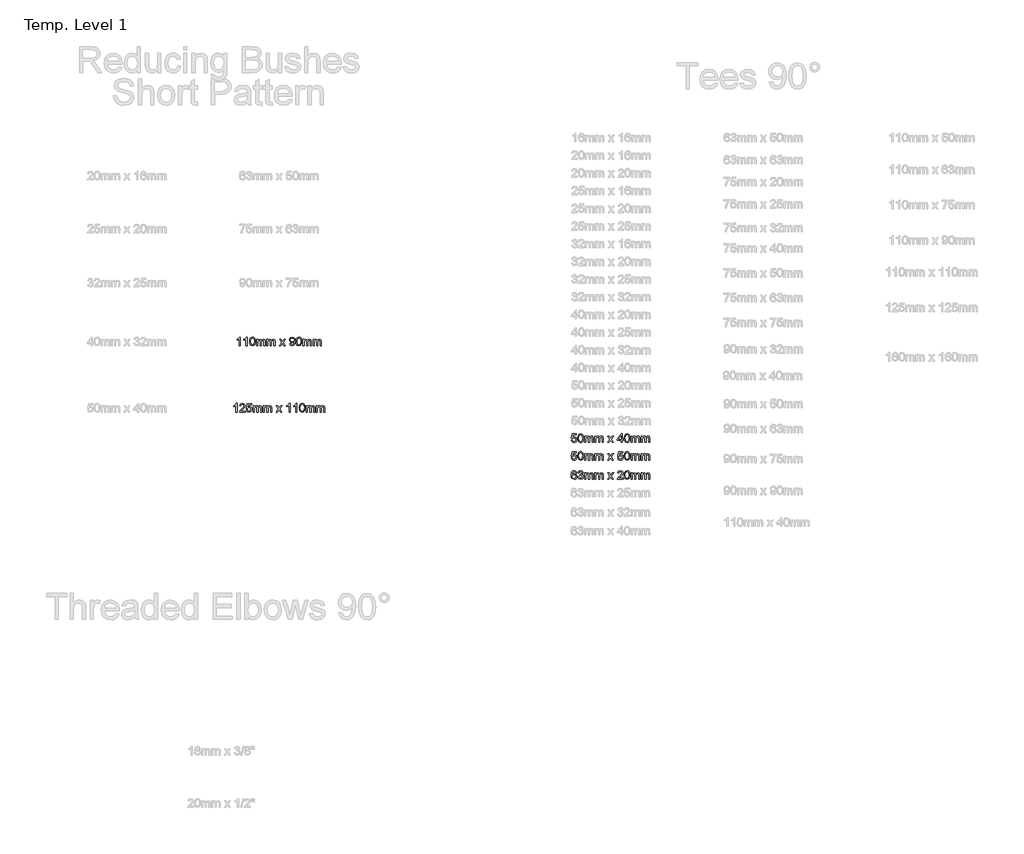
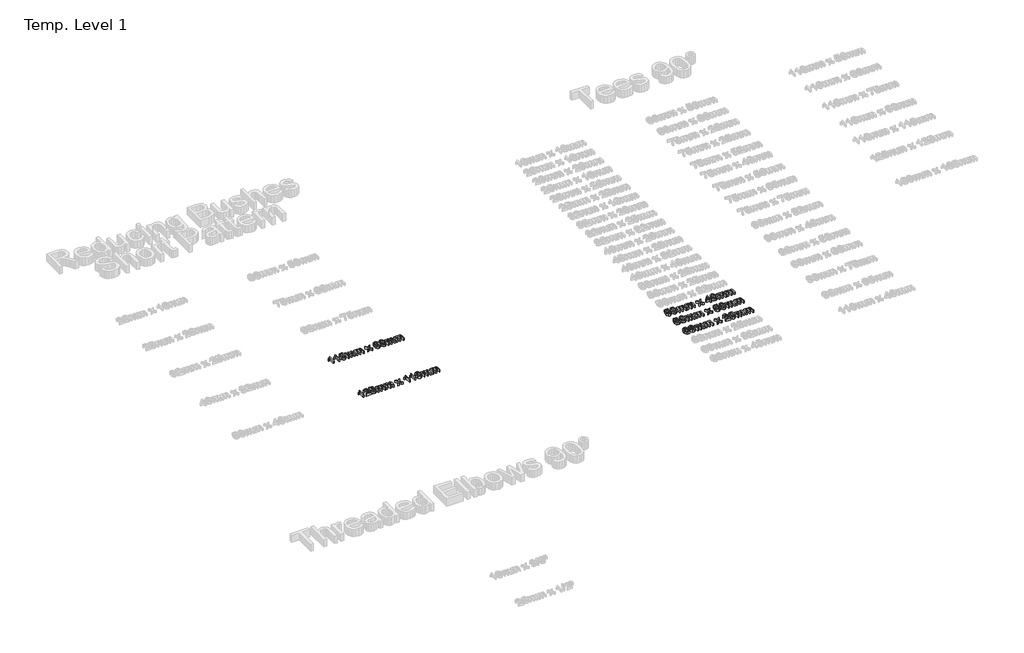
# One storey, part 24 of 62: 5 proxies.
"""IFC4 building model written with IfcOpenShell, lengths in millimetres."""

from ifc_helpers import new_model, si_unit, origin, origin_with_axes, place, context, project, spatial, polyline, outline, extrude, element, save

model = new_model("IFC4")

# Units and contexts
model_context = context("Model", 3, world=origin())
ifc_project = project(units=[si_unit("LENGTHUNIT", "METRE", prefix="MILLI")], contexts=[model_context])

# Site, building, storey
site = spatial("IfcSite", under=ifc_project)
building = spatial("IfcBuilding", under=site)
storey = spatial("IfcBuildingStorey", under=building, Name="Temp. Level 1", Elevation=0.0)

# Proxies
placement = place(None, origin())
element("IfcBuildingElementProxy", 1, Name="50mm Arial", ObjectType="50mm Arial", at=placement, inside=storey, context=model_context, shape_type="SweptSolid", body=[
    extrude(outline(polyline([(24542.2823318, -8522.7751451), (24536.1284857, -8522.7751451), (24536.1284857, -8484.4097605), (24530.2991588, -8488.5624047), (24523.8207934, -8491.6693759), (24523.8207934, -8485.8520682), (24532.8412261, -8480.0948566), (24538.3159857, -8473.5443759), (24542.2823318, -8473.5443759), (24542.2823318, -8522.7751451)])), origin_with_axes(), (0.0, 0.0, 1.0), 15.0),
    extrude(outline(polyline([(24579.9746395, -8522.7751451), (24573.8207934, -8522.7751451), (24573.8207934, -8484.4097605), (24567.9914665, -8488.5624047), (24561.5131011, -8491.6693759), (24561.5131011, -8485.8520682), (24570.5335338, -8480.0948566), (24576.0082934, -8473.5443759), (24579.9746395, -8473.5443759), (24579.9746395, -8522.7751451)])), origin_with_axes(), (0.0, 0.0, 1.0), 15.0),
    extrude(outline(polyline([(24594.5900242, -8498.5563951), (24596.3989184, -8484.3917316), (24601.7715145, -8476.2246643), (24610.7438703, -8473.5443759), (24617.9313703, -8475.1309143), (24622.8953126, -8479.7042316), (24625.779928, -8486.9878855), (24626.8977165, -8498.5563951), (24625.1068511, -8512.6609624), (24619.7522838, -8520.8460586), (24610.7438703, -8523.5443759), (24599.4938703, -8518.8568759), (24595.8159857, -8510.5305538), (24594.5900242, -8498.5563951)]), holes=[polyline([(24600.7438703, -8498.5443759), (24603.6284857, -8513.8268278), (24610.7438703, -8517.3905297), (24617.8592549, -8513.8148086), (24620.7438703, -8498.5443759), (24617.9554088, -8483.4362028), (24610.6717549, -8479.698222), (24603.7246395, -8482.9914913), (24600.7438703, -8498.5443759)])]), origin_with_axes(), (0.0, 0.0, 1.0), 15.0),
    extrude(outline(polyline([(24633.8207934, -8522.7751451), (24633.8207934, -8486.621299), (24639.9746395, -8486.621299), (24639.9746395, -8492.5708182), (24644.2054088, -8487.6970201), (24650.2270434, -8485.8520682), (24656.3929088, -8487.7330778), (24659.7823318, -8493.0035105), (24664.5840145, -8487.6399288), (24670.6477165, -8485.8520682), (24678.6945915, -8488.8268278), (24681.5131011, -8497.9914913), (24681.5131011, -8522.7751451), (24675.3592549, -8522.7751451), (24675.3592549, -8500.635722), (24674.7883415, -8495.4975009), (24672.7210338, -8492.9674528), (24669.2054088, -8492.0059143), (24663.1537261, -8494.4698566), (24660.7438703, -8502.3664913), (24660.7438703, -8522.7751451), (24654.5900242, -8522.7751451), (24654.5900242, -8499.9506259), (24653.1657453, -8493.9890874), (24648.4962742, -8492.0059143), (24643.9409857, -8493.3280297), (24640.9121395, -8497.198222), (24639.9746395, -8504.541972), (24639.9746395, -8522.7751451), (24633.8207934, -8522.7751451)])), origin_with_axes(), (0.0, 0.0, 1.0), 15.0),
    extrude(outline(polyline([(24690.7438703, -8522.7751451), (24690.7438703, -8486.621299), (24696.8977165, -8486.621299), (24696.8977165, -8492.5708182), (24701.1284857, -8487.6970201), (24707.1501203, -8485.8520682), (24713.3159857, -8487.7330778), (24716.7054088, -8493.0035105), (24721.5070915, -8487.6399288), (24727.5707934, -8485.8520682), (24735.6176684, -8488.8268278), (24738.436178, -8497.9914913), (24738.436178, -8522.7751451), (24732.2823318, -8522.7751451), (24732.2823318, -8500.635722), (24731.7114184, -8495.4975009), (24729.6441107, -8492.9674528), (24726.1284857, -8492.0059143), (24720.076803, -8494.4698566), (24717.6669472, -8502.3664913), (24717.6669472, -8522.7751451), (24711.5131011, -8522.7751451), (24711.5131011, -8499.9506259), (24710.0888222, -8493.9890874), (24705.4193511, -8492.0059143), (24700.8640626, -8493.3280297), (24697.8352165, -8497.198222), (24696.8977165, -8504.541972), (24696.8977165, -8522.7751451), (24690.7438703, -8522.7751451)])), origin_with_axes(), (0.0, 0.0, 1.0), 15.0),
    extrude(outline(polyline([(24763.0515626, -8522.7751451), (24776.2006011, -8504.6020682), (24763.8207934, -8486.621299), (24771.2246395, -8486.621299), (24777.1981972, -8495.2751451), (24779.9866588, -8499.3616836), (24782.4025242, -8496.0203374), (24789.2054088, -8486.621299), (24796.6092549, -8486.621299), (24783.6044472, -8504.6020682), (24796.1284857, -8522.7751451), (24788.7246395, -8522.7751451), (24781.1885818, -8511.8496643), (24779.8063703, -8509.854472), (24770.4554088, -8522.7751451), (24763.0515626, -8522.7751451)])), origin_with_axes(), (0.0, 0.0, 1.0), 15.0),
    extrude(outline(polyline([(24819.9746395, -8510.4674528), (24826.1284857, -8509.698222), (24828.8929088, -8515.5696163), (24834.1332934, -8517.3905297), (24839.1152645, -8516.2186547), (24842.4926684, -8513.0876451), (24844.5058895, -8507.7390874), (24845.3953126, -8500.5996643), (24840.4373799, -8504.0612028), (24833.6885818, -8505.8520682), (24823.4061299, -8501.4770682), (24819.2054088, -8489.9506259), (24823.6104568, -8478.0515874), (24834.6501203, -8473.5443759), (24843.4181492, -8476.1164913), (24849.451803, -8483.448222), (24851.5131011, -8497.2222605), (24849.4578126, -8512.168174), (24843.3460338, -8520.635722), (24833.8448318, -8523.5443759), (24824.3856972, -8520.1128855), (24819.9746395, -8510.4674528)]), holes=[polyline([(24845.3592549, -8489.8063951), (24842.7030049, -8482.4265874), (24835.6477165, -8479.698222), (24828.2438703, -8482.636924), (24825.3592549, -8490.2511066), (24828.0876203, -8497.0720201), (24835.4794472, -8499.698222), (24842.576803, -8497.0720201), (24845.3592549, -8489.8063951)])]), origin_with_axes(), (0.0, 0.0, 1.0), 15.0),
    extrude(outline(polyline([(24856.8977165, -8498.5563951), (24858.7066107, -8484.3917316), (24864.0792068, -8476.2246643), (24873.0515626, -8473.5443759), (24880.2390626, -8475.1309143), (24885.2030049, -8479.7042316), (24888.0876203, -8486.9878855), (24889.2054088, -8498.5563951), (24887.4145434, -8512.6609624), (24882.0599761, -8520.8460586), (24873.0515626, -8523.5443759), (24861.8015626, -8518.8568759), (24858.123678, -8510.5305538), (24856.8977165, -8498.5563951)]), holes=[polyline([(24863.0515626, -8498.5443759), (24865.936178, -8513.8268278), (24873.0515626, -8517.3905297), (24880.1669472, -8513.8148086), (24883.0515626, -8498.5443759), (24880.2631011, -8483.4362028), (24872.9794472, -8479.698222), (24866.0323318, -8482.9914913), (24863.0515626, -8498.5443759)])]), origin_with_axes(), (0.0, 0.0, 1.0), 15.0),
    extrude(outline(polyline([(24896.1284857, -8522.7751451), (24896.1284857, -8486.621299), (24902.2823318, -8486.621299), (24902.2823318, -8492.5708182), (24906.5131011, -8487.6970201), (24912.5347357, -8485.8520682), (24918.7006011, -8487.7330778), (24922.0900242, -8493.0035105), (24926.8917068, -8487.6399288), (24932.9554088, -8485.8520682), (24941.0022838, -8488.8268278), (24943.8207934, -8497.9914913), (24943.8207934, -8522.7751451), (24937.6669472, -8522.7751451), (24937.6669472, -8500.635722), (24937.0960338, -8495.4975009), (24935.0287261, -8492.9674528), (24931.5131011, -8492.0059143), (24925.4614184, -8494.4698566), (24923.0515626, -8502.3664913), (24923.0515626, -8522.7751451), (24916.8977165, -8522.7751451), (24916.8977165, -8499.9506259), (24915.4734376, -8493.9890874), (24910.8039665, -8492.0059143), (24906.248678, -8493.3280297), (24903.2198318, -8497.198222), (24902.2823318, -8504.541972), (24902.2823318, -8522.7751451), (24896.1284857, -8522.7751451)])), origin_with_axes(), (0.0, 0.0, 1.0), 15.0),
    extrude(outline(polyline([(24953.0515626, -8522.7751451), (24953.0515626, -8486.621299), (24959.2054088, -8486.621299), (24959.2054088, -8492.5708182), (24963.436178, -8487.6970201), (24969.4578126, -8485.8520682), (24975.623678, -8487.7330778), (24979.0131011, -8493.0035105), (24983.8147838, -8487.6399288), (24989.8784857, -8485.8520682), (24997.9253607, -8488.8268278), (25000.7438703, -8497.9914913), (25000.7438703, -8522.7751451), (24994.5900242, -8522.7751451), (24994.5900242, -8500.635722), (24994.0191107, -8495.4975009), (24991.951803, -8492.9674528), (24988.436178, -8492.0059143), (24982.3844953, -8494.4698566), (24979.9746395, -8502.3664913), (24979.9746395, -8522.7751451), (24973.8207934, -8522.7751451), (24973.8207934, -8499.9506259), (24972.3965145, -8493.9890874), (24967.7270434, -8492.0059143), (24963.1717549, -8493.3280297), (24960.1429088, -8497.198222), (24959.2054088, -8504.541972), (24959.2054088, -8522.7751451), (24953.0515626, -8522.7751451)])), origin_with_axes(), (0.0, 0.0, 1.0), 15.0),
])
element("IfcBuildingElementProxy", 2, Name="50mm Arial", ObjectType="50mm Arial", at=placement, inside=storey, context=model_context, shape_type="SweptSolid", body=[
    extrude(outline(polyline([(24523.436178, -8897.7751451), (24517.2823318, -8897.7751451), (24517.2823318, -8859.4097605), (24511.4530049, -8863.5624047), (24504.9746395, -8866.6693759), (24504.9746395, -8860.8520682), (24513.9950722, -8855.0948566), (24519.4698318, -8848.5443759), (24523.436178, -8848.5443759), (24523.436178, -8897.7751451)])), origin_with_axes(), (0.0, 0.0, 1.0), 15.0),
    extrude(outline(polyline([(24569.5900242, -8891.621299), (24569.5900242, -8897.7751451), (24537.2823318, -8897.7751451), (24537.9433895, -8893.5323566), (24541.6813703, -8886.9999047), (24549.3856972, -8879.8664913), (24560.0106972, -8869.6140874), (24562.6669472, -8862.6429336), (24560.1609376, -8856.9999047), (24553.6164665, -8854.698222), (24546.795553, -8856.9458182), (24544.2054088, -8863.1597605), (24538.0515626, -8862.3905297), (24542.7691107, -8852.090049), (24553.748678, -8848.5443759), (24564.764303, -8852.4866836), (24568.8207934, -8862.2703374), (24567.7270434, -8868.105674), (24564.0912261, -8874.1393278), (24555.2751203, -8882.5708182), (24548.1957934, -8888.4902893), (24545.4193511, -8891.621299), (24569.5900242, -8891.621299)])), origin_with_axes(), (0.0, 0.0, 1.0), 15.0),
    extrude(outline(polyline([(24575.7438703, -8884.698222), (24581.8977165, -8883.9289913), (24584.998678, -8890.2691355), (24591.4289665, -8892.3905297), (24599.1453126, -8889.4398086), (24601.8977165, -8881.6092797), (24599.3195915, -8874.3015874), (24591.5251203, -8871.621299), (24586.1224761, -8872.6910105), (24582.6669472, -8875.4674528), (24576.5131011, -8874.698222), (24581.8977165, -8849.3136066), (24605.7438703, -8849.3136066), (24605.7438703, -8855.4674528), (24586.873678, -8855.4674528), (24584.2414665, -8869.0251451), (24593.2438703, -8865.4674528), (24603.7667068, -8869.8785105), (24608.0515626, -8881.2246643), (24604.1933895, -8892.6429336), (24598.6525242, -8897.0690153), (24591.404928, -8898.5443759), (24580.545553, -8894.7523086), (24575.7438703, -8884.698222)])), origin_with_axes(), (0.0, 0.0, 1.0), 15.0),
    extrude(outline(polyline([(24614.9746395, -8897.7751451), (24614.9746395, -8861.621299), (24621.1284857, -8861.621299), (24621.1284857, -8867.5708182), (24625.3592549, -8862.6970201), (24631.3808895, -8860.8520682), (24637.5467549, -8862.7330778), (24640.936178, -8868.0035105), (24645.7378607, -8862.6399288), (24651.8015626, -8860.8520682), (24659.8484376, -8863.8268278), (24662.6669472, -8872.9914913), (24662.6669472, -8897.7751451), (24656.5131011, -8897.7751451), (24656.5131011, -8875.635722), (24655.9421876, -8870.4975009), (24653.8748799, -8867.9674528), (24650.3592549, -8867.0059143), (24644.3075722, -8869.4698566), (24641.8977165, -8877.3664913), (24641.8977165, -8897.7751451), (24635.7438703, -8897.7751451), (24635.7438703, -8874.9506259), (24634.3195915, -8868.9890874), (24629.6501203, -8867.0059143), (24625.0948318, -8868.3280297), (24622.0659857, -8872.198222), (24621.1284857, -8879.541972), (24621.1284857, -8897.7751451), (24614.9746395, -8897.7751451)])), origin_with_axes(), (0.0, 0.0, 1.0), 15.0),
    extrude(outline(polyline([(24671.8977165, -8897.7751451), (24671.8977165, -8861.621299), (24678.0515626, -8861.621299), (24678.0515626, -8867.5708182), (24682.2823318, -8862.6970201), (24688.3039665, -8860.8520682), (24694.4698318, -8862.7330778), (24697.8592549, -8868.0035105), (24702.6609376, -8862.6399288), (24708.7246395, -8860.8520682), (24716.7715145, -8863.8268278), (24719.5900242, -8872.9914913), (24719.5900242, -8897.7751451), (24713.436178, -8897.7751451), (24713.436178, -8875.635722), (24712.8652645, -8870.4975009), (24710.7979568, -8867.9674528), (24707.2823318, -8867.0059143), (24701.2306492, -8869.4698566), (24698.8207934, -8877.3664913), (24698.8207934, -8897.7751451), (24692.6669472, -8897.7751451), (24692.6669472, -8874.9506259), (24691.2426684, -8868.9890874), (24686.5731972, -8867.0059143), (24682.0179088, -8868.3280297), (24678.9890626, -8872.198222), (24678.0515626, -8879.541972), (24678.0515626, -8897.7751451), (24671.8977165, -8897.7751451)])), origin_with_axes(), (0.0, 0.0, 1.0), 15.0),
    extrude(outline(polyline([(24744.2054088, -8897.7751451), (24757.3544472, -8879.6020682), (24744.9746395, -8861.621299), (24752.3784857, -8861.621299), (24758.3520434, -8870.2751451), (24761.1405049, -8874.3616836), (24763.5563703, -8871.0203374), (24770.3592549, -8861.621299), (24777.7631011, -8861.621299), (24764.7582934, -8879.6020682), (24777.2823318, -8897.7751451), (24769.8784857, -8897.7751451), (24762.342428, -8886.8496643), (24760.9602165, -8884.854472), (24751.6092549, -8897.7751451), (24744.2054088, -8897.7751451)])), origin_with_axes(), (0.0, 0.0, 1.0), 15.0),
    extrude(outline(polyline([(24823.436178, -8897.7751451), (24817.2823318, -8897.7751451), (24817.2823318, -8859.4097605), (24811.4530049, -8863.5624047), (24804.9746395, -8866.6693759), (24804.9746395, -8860.8520682), (24813.9950722, -8855.0948566), (24819.4698318, -8848.5443759), (24823.436178, -8848.5443759), (24823.436178, -8897.7751451)])), origin_with_axes(), (0.0, 0.0, 1.0), 15.0),
    extrude(outline(polyline([(24861.1284857, -8897.7751451), (24854.9746395, -8897.7751451), (24854.9746395, -8859.4097605), (24849.1453126, -8863.5624047), (24842.6669472, -8866.6693759), (24842.6669472, -8860.8520682), (24851.6873799, -8855.0948566), (24857.1621395, -8848.5443759), (24861.1284857, -8848.5443759), (24861.1284857, -8897.7751451)])), origin_with_axes(), (0.0, 0.0, 1.0), 15.0),
    extrude(outline(polyline([(24875.7438703, -8873.5563951), (24877.5527645, -8859.3917316), (24882.9253607, -8851.2246643), (24891.8977165, -8848.5443759), (24899.0852165, -8850.1309143), (24904.0491588, -8854.7042316), (24906.9337742, -8861.9878855), (24908.0515626, -8873.5563951), (24906.2606972, -8887.6609624), (24900.9061299, -8895.8460586), (24891.8977165, -8898.5443759), (24880.6477165, -8893.8568759), (24876.9698318, -8885.5305538), (24875.7438703, -8873.5563951)]), holes=[polyline([(24881.8977165, -8873.5443759), (24884.7823318, -8888.8268278), (24891.8977165, -8892.3905297), (24899.0131011, -8888.8148086), (24901.8977165, -8873.5443759), (24899.1092549, -8858.4362028), (24891.8256011, -8854.698222), (24884.8784857, -8857.9914913), (24881.8977165, -8873.5443759)])]), origin_with_axes(), (0.0, 0.0, 1.0), 15.0),
    extrude(outline(polyline([(24914.9746395, -8897.7751451), (24914.9746395, -8861.621299), (24921.1284857, -8861.621299), (24921.1284857, -8867.5708182), (24925.3592549, -8862.6970201), (24931.3808895, -8860.8520682), (24937.5467549, -8862.7330778), (24940.936178, -8868.0035105), (24945.7378607, -8862.6399288), (24951.8015626, -8860.8520682), (24959.8484376, -8863.8268278), (24962.6669472, -8872.9914913), (24962.6669472, -8897.7751451), (24956.5131011, -8897.7751451), (24956.5131011, -8875.635722), (24955.9421876, -8870.4975009), (24953.8748799, -8867.9674528), (24950.3592549, -8867.0059143), (24944.3075722, -8869.4698566), (24941.8977165, -8877.3664913), (24941.8977165, -8897.7751451), (24935.7438703, -8897.7751451), (24935.7438703, -8874.9506259), (24934.3195915, -8868.9890874), (24929.6501203, -8867.0059143), (24925.0948318, -8868.3280297), (24922.0659857, -8872.198222), (24921.1284857, -8879.541972), (24921.1284857, -8897.7751451), (24914.9746395, -8897.7751451)])), origin_with_axes(), (0.0, 0.0, 1.0), 15.0),
    extrude(outline(polyline([(24971.8977165, -8897.7751451), (24971.8977165, -8861.621299), (24978.0515626, -8861.621299), (24978.0515626, -8867.5708182), (24982.2823318, -8862.6970201), (24988.3039665, -8860.8520682), (24994.4698318, -8862.7330778), (24997.8592549, -8868.0035105), (25002.6609376, -8862.6399288), (25008.7246395, -8860.8520682), (25016.7715145, -8863.8268278), (25019.5900242, -8872.9914913), (25019.5900242, -8897.7751451), (25013.436178, -8897.7751451), (25013.436178, -8875.635722), (25012.8652645, -8870.4975009), (25010.7979568, -8867.9674528), (25007.2823318, -8867.0059143), (25001.2306492, -8869.4698566), (24998.8207934, -8877.3664913), (24998.8207934, -8897.7751451), (24992.6669472, -8897.7751451), (24992.6669472, -8874.9506259), (24991.2426684, -8868.9890874), (24986.5731972, -8867.0059143), (24982.0179088, -8868.3280297), (24978.9890626, -8872.198222), (24978.0515626, -8879.541972), (24978.0515626, -8897.7751451), (24971.8977165, -8897.7751451)])), origin_with_axes(), (0.0, 0.0, 1.0), 15.0),
])
element("IfcBuildingElementProxy", 3, Name="50mm Arial", ObjectType="50mm Arial", at=placement, inside=storey, context=model_context, shape_type="SweptSolid", body=[
    extrude(outline(polyline([(26412.2286847, -9056.4186581), (26418.3825309, -9055.6494273), (26421.4834924, -9061.9895715), (26427.9137809, -9064.1109658), (26435.6301271, -9061.1602446), (26438.3825309, -9053.3297158), (26435.8044059, -9046.0220235), (26428.0099347, -9043.341735), (26422.6072905, -9044.4114465), (26419.1517617, -9047.1878888), (26412.9979155, -9046.4186581), (26418.3825309, -9021.0340427), (26442.2286847, -9021.0340427), (26442.2286847, -9027.1878888), (26423.3584924, -9027.1878888), (26420.7262809, -9040.7455811), (26429.7286847, -9037.1878888), (26440.2515213, -9041.5989465), (26444.5363771, -9052.9451004), (26440.678204, -9064.3633696), (26435.1373386, -9068.7894513), (26427.8897424, -9070.2648119), (26417.0303674, -9066.4727446), (26412.2286847, -9056.4186581)])), origin_with_axes(), (0.0, 0.0, 1.0), 15.0),
    extrude(outline(polyline([(26449.9209924, -9045.2768311), (26451.7298867, -9031.1121677), (26457.1024828, -9022.9451004), (26466.0748386, -9020.2648119), (26473.2623386, -9021.8513504), (26478.2262809, -9026.4246677), (26481.1108963, -9033.7083215), (26482.2286847, -9045.2768311), (26480.4378194, -9059.3813985), (26475.0832521, -9067.5664946), (26466.0748386, -9070.2648119), (26454.8248386, -9065.5773119), (26451.146954, -9057.2509898), (26449.9209924, -9045.2768311)]), holes=[polyline([(26456.0748386, -9045.2648119), (26458.959454, -9060.5472638), (26466.0748386, -9064.1109658), (26473.1902232, -9060.5352446), (26476.0748386, -9045.2648119), (26473.2863771, -9030.1566388), (26466.0027232, -9026.4186581), (26459.0556078, -9029.7119273), (26456.0748386, -9045.2648119)])]), origin_with_axes(), (0.0, 0.0, 1.0), 15.0),
    extrude(outline(polyline([(26489.1517617, -9069.4955811), (26489.1517617, -9033.341735), (26495.3056078, -9033.341735), (26495.3056078, -9039.2912542), (26499.5363771, -9034.4174561), (26505.5580117, -9032.5725042), (26511.7238771, -9034.4535138), (26515.1133001, -9039.7239465), (26519.9149828, -9034.3603648), (26525.9786847, -9032.5725042), (26534.0255597, -9035.5472638), (26536.8440694, -9044.7119273), (26536.8440694, -9069.4955811), (26530.6902232, -9069.4955811), (26530.6902232, -9047.3561581), (26530.1193097, -9042.2179369), (26528.0520021, -9039.6878888), (26524.5363771, -9038.7263504), (26518.4846944, -9041.1902927), (26516.0748386, -9049.0869273), (26516.0748386, -9069.4955811), (26509.9209924, -9069.4955811), (26509.9209924, -9046.6710619), (26508.4967136, -9040.7095235), (26503.8272424, -9038.7263504), (26499.271954, -9040.0484658), (26496.2431078, -9043.9186581), (26495.3056078, -9051.2624081), (26495.3056078, -9069.4955811), (26489.1517617, -9069.4955811)])), origin_with_axes(), (0.0, 0.0, 1.0), 15.0),
    extrude(outline(polyline([(26546.0748386, -9069.4955811), (26546.0748386, -9033.341735), (26552.2286847, -9033.341735), (26552.2286847, -9039.2912542), (26556.459454, -9034.4174561), (26562.4810886, -9032.5725042), (26568.646954, -9034.4535138), (26572.0363771, -9039.7239465), (26576.8380597, -9034.3603648), (26582.9017617, -9032.5725042), (26590.9486367, -9035.5472638), (26593.7671463, -9044.7119273), (26593.7671463, -9069.4955811), (26587.6133001, -9069.4955811), (26587.6133001, -9047.3561581), (26587.0423867, -9042.2179369), (26584.975079, -9039.6878888), (26581.459454, -9038.7263504), (26575.4077713, -9041.1902927), (26572.9979155, -9049.0869273), (26572.9979155, -9069.4955811), (26566.8440694, -9069.4955811), (26566.8440694, -9046.6710619), (26565.4197905, -9040.7095235), (26560.7503194, -9038.7263504), (26556.1950309, -9040.0484658), (26553.1661847, -9043.9186581), (26552.2286847, -9051.2624081), (26552.2286847, -9069.4955811), (26546.0748386, -9069.4955811)])), origin_with_axes(), (0.0, 0.0, 1.0), 15.0),
    extrude(outline(polyline([(26618.3825309, -9069.4955811), (26631.5315694, -9051.3225042), (26619.1517617, -9033.341735), (26626.5556078, -9033.341735), (26632.5291655, -9041.9955811), (26635.3176271, -9046.0821196), (26637.7334924, -9042.7407735), (26644.5363771, -9033.341735), (26651.9402232, -9033.341735), (26638.9354155, -9051.3225042), (26651.459454, -9069.4955811), (26644.0556078, -9069.4955811), (26636.5195501, -9058.5701004), (26635.1373386, -9056.5749081), (26625.7863771, -9069.4955811), (26618.3825309, -9069.4955811)])), origin_with_axes(), (0.0, 0.0, 1.0), 15.0),
    extrude(outline(polyline([(26694.5363771, -9069.4955811), (26694.5363771, -9057.9571196), (26672.2286847, -9057.9571196), (26672.2286847, -9051.8032735), (26696.0748386, -9021.0340427), (26700.6902232, -9021.0340427), (26700.6902232, -9051.8032735), (26706.8440694, -9051.8032735), (26706.8440694, -9057.9571196), (26700.6902232, -9057.9571196), (26700.6902232, -9069.4955811), (26694.5363771, -9069.4955811)]), holes=[polyline([(26694.5363771, -9051.8032735), (26694.5363771, -9032.7888504), (26679.8008001, -9051.8032735), (26694.5363771, -9051.8032735)])]), origin_with_axes(), (0.0, 0.0, 1.0), 15.0),
    extrude(outline(polyline([(26712.2286847, -9045.2768311), (26714.037579, -9031.1121677), (26719.4101751, -9022.9451004), (26728.3825309, -9020.2648119), (26735.5700309, -9021.8513504), (26740.5339732, -9026.4246677), (26743.4185886, -9033.7083215), (26744.5363771, -9045.2768311), (26742.7455117, -9059.3813985), (26737.3909444, -9067.5664946), (26728.3825309, -9070.2648119), (26717.1325309, -9065.5773119), (26713.4546463, -9057.2509898), (26712.2286847, -9045.2768311)]), holes=[polyline([(26718.3825309, -9045.2648119), (26721.2671463, -9060.5472638), (26728.3825309, -9064.1109658), (26735.4979155, -9060.5352446), (26738.3825309, -9045.2648119), (26735.5940694, -9030.1566388), (26728.3104155, -9026.4186581), (26721.3633001, -9029.7119273), (26718.3825309, -9045.2648119)])]), origin_with_axes(), (0.0, 0.0, 1.0), 15.0),
    extrude(outline(polyline([(26751.459454, -9069.4955811), (26751.459454, -9033.341735), (26757.6133001, -9033.341735), (26757.6133001, -9039.2912542), (26761.8440694, -9034.4174561), (26767.865704, -9032.5725042), (26774.0315694, -9034.4535138), (26777.4209924, -9039.7239465), (26782.2226751, -9034.3603648), (26788.2863771, -9032.5725042), (26796.3332521, -9035.5472638), (26799.1517617, -9044.7119273), (26799.1517617, -9069.4955811), (26792.9979155, -9069.4955811), (26792.9979155, -9047.3561581), (26792.4270021, -9042.2179369), (26790.3596944, -9039.6878888), (26786.8440694, -9038.7263504), (26780.7923867, -9041.1902927), (26778.3825309, -9049.0869273), (26778.3825309, -9069.4955811), (26772.2286847, -9069.4955811), (26772.2286847, -9046.6710619), (26770.8044059, -9040.7095235), (26766.1349347, -9038.7263504), (26761.5796463, -9040.0484658), (26758.5508001, -9043.9186581), (26757.6133001, -9051.2624081), (26757.6133001, -9069.4955811), (26751.459454, -9069.4955811)])), origin_with_axes(), (0.0, 0.0, 1.0), 15.0),
    extrude(outline(polyline([(26808.3825309, -9069.4955811), (26808.3825309, -9033.341735), (26814.5363771, -9033.341735), (26814.5363771, -9039.2912542), (26818.7671463, -9034.4174561), (26824.7887809, -9032.5725042), (26830.9546463, -9034.4535138), (26834.3440694, -9039.7239465), (26839.1457521, -9034.3603648), (26845.209454, -9032.5725042), (26853.256329, -9035.5472638), (26856.0748386, -9044.7119273), (26856.0748386, -9069.4955811), (26849.9209924, -9069.4955811), (26849.9209924, -9047.3561581), (26849.350079, -9042.2179369), (26847.2827713, -9039.6878888), (26843.7671463, -9038.7263504), (26837.7154636, -9041.1902927), (26835.3056078, -9049.0869273), (26835.3056078, -9069.4955811), (26829.1517617, -9069.4955811), (26829.1517617, -9046.6710619), (26827.7274828, -9040.7095235), (26823.0580117, -9038.7263504), (26818.5027232, -9040.0484658), (26815.4738771, -9043.9186581), (26814.5363771, -9051.2624081), (26814.5363771, -9069.4955811), (26808.3825309, -9069.4955811)])), origin_with_axes(), (0.0, 0.0, 1.0), 15.0),
])
element("IfcBuildingElementProxy", 4, Name="50mm Arial", ObjectType="50mm Arial", at=placement, inside=storey, context=model_context, shape_type="SweptSolid", body=[
    extrude(outline(polyline([(26412.2286847, -9156.4186581), (26418.3825309, -9155.6494273), (26421.4834924, -9161.9895715), (26427.9137809, -9164.1109658), (26435.6301271, -9161.1602446), (26438.3825309, -9153.3297158), (26435.8044059, -9146.0220235), (26428.0099347, -9143.341735), (26422.6072905, -9144.4114465), (26419.1517617, -9147.1878888), (26412.9979155, -9146.4186581), (26418.3825309, -9121.0340427), (26442.2286847, -9121.0340427), (26442.2286847, -9127.1878888), (26423.3584924, -9127.1878888), (26420.7262809, -9140.7455811), (26429.7286847, -9137.1878888), (26440.2515213, -9141.5989465), (26444.5363771, -9152.9451004), (26440.678204, -9164.3633696), (26435.1373386, -9168.7894513), (26427.8897424, -9170.2648119), (26417.0303674, -9166.4727446), (26412.2286847, -9156.4186581)])), origin_with_axes(), (0.0, 0.0, 1.0), 15.0),
    extrude(outline(polyline([(26449.9209924, -9145.2768311), (26451.7298867, -9131.1121677), (26457.1024828, -9122.9451004), (26466.0748386, -9120.2648119), (26473.2623386, -9121.8513504), (26478.2262809, -9126.4246677), (26481.1108963, -9133.7083215), (26482.2286847, -9145.2768311), (26480.4378194, -9159.3813985), (26475.0832521, -9167.5664946), (26466.0748386, -9170.2648119), (26454.8248386, -9165.5773119), (26451.146954, -9157.2509898), (26449.9209924, -9145.2768311)]), holes=[polyline([(26456.0748386, -9145.2648119), (26458.959454, -9160.5472638), (26466.0748386, -9164.1109658), (26473.1902232, -9160.5352446), (26476.0748386, -9145.2648119), (26473.2863771, -9130.1566388), (26466.0027232, -9126.4186581), (26459.0556078, -9129.7119273), (26456.0748386, -9145.2648119)])]), origin_with_axes(), (0.0, 0.0, 1.0), 15.0),
    extrude(outline(polyline([(26489.1517617, -9169.4955811), (26489.1517617, -9133.341735), (26495.3056078, -9133.341735), (26495.3056078, -9139.2912542), (26499.5363771, -9134.4174561), (26505.5580117, -9132.5725042), (26511.7238771, -9134.4535138), (26515.1133001, -9139.7239465), (26519.9149828, -9134.3603648), (26525.9786847, -9132.5725042), (26534.0255597, -9135.5472638), (26536.8440694, -9144.7119273), (26536.8440694, -9169.4955811), (26530.6902232, -9169.4955811), (26530.6902232, -9147.3561581), (26530.1193097, -9142.2179369), (26528.0520021, -9139.6878888), (26524.5363771, -9138.7263504), (26518.4846944, -9141.1902927), (26516.0748386, -9149.0869273), (26516.0748386, -9169.4955811), (26509.9209924, -9169.4955811), (26509.9209924, -9146.6710619), (26508.4967136, -9140.7095235), (26503.8272424, -9138.7263504), (26499.271954, -9140.0484658), (26496.2431078, -9143.9186581), (26495.3056078, -9151.2624081), (26495.3056078, -9169.4955811), (26489.1517617, -9169.4955811)])), origin_with_axes(), (0.0, 0.0, 1.0), 15.0),
    extrude(outline(polyline([(26546.0748386, -9169.4955811), (26546.0748386, -9133.341735), (26552.2286847, -9133.341735), (26552.2286847, -9139.2912542), (26556.459454, -9134.4174561), (26562.4810886, -9132.5725042), (26568.646954, -9134.4535138), (26572.0363771, -9139.7239465), (26576.8380597, -9134.3603648), (26582.9017617, -9132.5725042), (26590.9486367, -9135.5472638), (26593.7671463, -9144.7119273), (26593.7671463, -9169.4955811), (26587.6133001, -9169.4955811), (26587.6133001, -9147.3561581), (26587.0423867, -9142.2179369), (26584.975079, -9139.6878888), (26581.459454, -9138.7263504), (26575.4077713, -9141.1902927), (26572.9979155, -9149.0869273), (26572.9979155, -9169.4955811), (26566.8440694, -9169.4955811), (26566.8440694, -9146.6710619), (26565.4197905, -9140.7095235), (26560.7503194, -9138.7263504), (26556.1950309, -9140.0484658), (26553.1661847, -9143.9186581), (26552.2286847, -9151.2624081), (26552.2286847, -9169.4955811), (26546.0748386, -9169.4955811)])), origin_with_axes(), (0.0, 0.0, 1.0), 15.0),
    extrude(outline(polyline([(26618.3825309, -9169.4955811), (26631.5315694, -9151.3225042), (26619.1517617, -9133.341735), (26626.5556078, -9133.341735), (26632.5291655, -9141.9955811), (26635.3176271, -9146.0821196), (26637.7334924, -9142.7407735), (26644.5363771, -9133.341735), (26651.9402232, -9133.341735), (26638.9354155, -9151.3225042), (26651.459454, -9169.4955811), (26644.0556078, -9169.4955811), (26636.5195501, -9158.5701004), (26635.1373386, -9156.5749081), (26625.7863771, -9169.4955811), (26618.3825309, -9169.4955811)])), origin_with_axes(), (0.0, 0.0, 1.0), 15.0),
    extrude(outline(polyline([(26674.5363771, -9156.4186581), (26680.6902232, -9155.6494273), (26683.7911847, -9161.9895715), (26690.2214732, -9164.1109658), (26697.9378194, -9161.1602446), (26700.6902232, -9153.3297158), (26698.1120982, -9146.0220235), (26690.3176271, -9143.341735), (26684.9149828, -9144.4114465), (26681.459454, -9147.1878888), (26675.3056078, -9146.4186581), (26680.6902232, -9121.0340427), (26704.5363771, -9121.0340427), (26704.5363771, -9127.1878888), (26685.6661847, -9127.1878888), (26683.0339732, -9140.7455811), (26692.0363771, -9137.1878888), (26702.5592136, -9141.5989465), (26706.8440694, -9152.9451004), (26702.9858963, -9164.3633696), (26697.4450309, -9168.7894513), (26690.1974347, -9170.2648119), (26679.3380597, -9166.4727446), (26674.5363771, -9156.4186581)])), origin_with_axes(), (0.0, 0.0, 1.0), 15.0),
    extrude(outline(polyline([(26712.2286847, -9145.2768311), (26714.037579, -9131.1121677), (26719.4101751, -9122.9451004), (26728.3825309, -9120.2648119), (26735.5700309, -9121.8513504), (26740.5339732, -9126.4246677), (26743.4185886, -9133.7083215), (26744.5363771, -9145.2768311), (26742.7455117, -9159.3813985), (26737.3909444, -9167.5664946), (26728.3825309, -9170.2648119), (26717.1325309, -9165.5773119), (26713.4546463, -9157.2509898), (26712.2286847, -9145.2768311)]), holes=[polyline([(26718.3825309, -9145.2648119), (26721.2671463, -9160.5472638), (26728.3825309, -9164.1109658), (26735.4979155, -9160.5352446), (26738.3825309, -9145.2648119), (26735.5940694, -9130.1566388), (26728.3104155, -9126.4186581), (26721.3633001, -9129.7119273), (26718.3825309, -9145.2648119)])]), origin_with_axes(), (0.0, 0.0, 1.0), 15.0),
    extrude(outline(polyline([(26751.459454, -9169.4955811), (26751.459454, -9133.341735), (26757.6133001, -9133.341735), (26757.6133001, -9139.2912542), (26761.8440694, -9134.4174561), (26767.865704, -9132.5725042), (26774.0315694, -9134.4535138), (26777.4209924, -9139.7239465), (26782.2226751, -9134.3603648), (26788.2863771, -9132.5725042), (26796.3332521, -9135.5472638), (26799.1517617, -9144.7119273), (26799.1517617, -9169.4955811), (26792.9979155, -9169.4955811), (26792.9979155, -9147.3561581), (26792.4270021, -9142.2179369), (26790.3596944, -9139.6878888), (26786.8440694, -9138.7263504), (26780.7923867, -9141.1902927), (26778.3825309, -9149.0869273), (26778.3825309, -9169.4955811), (26772.2286847, -9169.4955811), (26772.2286847, -9146.6710619), (26770.8044059, -9140.7095235), (26766.1349347, -9138.7263504), (26761.5796463, -9140.0484658), (26758.5508001, -9143.9186581), (26757.6133001, -9151.2624081), (26757.6133001, -9169.4955811), (26751.459454, -9169.4955811)])), origin_with_axes(), (0.0, 0.0, 1.0), 15.0),
    extrude(outline(polyline([(26808.3825309, -9169.4955811), (26808.3825309, -9133.341735), (26814.5363771, -9133.341735), (26814.5363771, -9139.2912542), (26818.7671463, -9134.4174561), (26824.7887809, -9132.5725042), (26830.9546463, -9134.4535138), (26834.3440694, -9139.7239465), (26839.1457521, -9134.3603648), (26845.209454, -9132.5725042), (26853.256329, -9135.5472638), (26856.0748386, -9144.7119273), (26856.0748386, -9169.4955811), (26849.9209924, -9169.4955811), (26849.9209924, -9147.3561581), (26849.350079, -9142.2179369), (26847.2827713, -9139.6878888), (26843.7671463, -9138.7263504), (26837.7154636, -9141.1902927), (26835.3056078, -9149.0869273), (26835.3056078, -9169.4955811), (26829.1517617, -9169.4955811), (26829.1517617, -9146.6710619), (26827.7274828, -9140.7095235), (26823.0580117, -9138.7263504), (26818.5027232, -9140.0484658), (26815.4738771, -9143.9186581), (26814.5363771, -9151.2624081), (26814.5363771, -9169.4955811), (26808.3825309, -9169.4955811)])), origin_with_axes(), (0.0, 0.0, 1.0), 15.0),
])
element("IfcBuildingElementProxy", 5, Name="50mm Arial", ObjectType="50mm Arial", at=placement, inside=storey, context=model_context, shape_type="SweptSolid", body=[
    extrude(outline(polyline([(26443.7671463, -9241.2279829), (26437.6133001, -9241.9972136), (26435.2815694, -9236.8650021), (26429.115704, -9234.3049059), (26423.5628194, -9235.7952905), (26419.3620982, -9241.3902425), (26417.6133001, -9252.3577905), (26423.0399828, -9247.4479348), (26429.7647424, -9245.8433675), (26440.2214732, -9250.2303867), (26444.5363771, -9261.5645213), (26442.5051271, -9270.0561079), (26436.9161847, -9276.0657232), (26428.8512809, -9278.1510598), (26416.3092136, -9272.6222136), (26412.6718939, -9265.3025021), (26411.459454, -9254.4010598), (26412.8056078, -9242.1444492), (26416.8440694, -9233.7640405), (26422.3578915, -9229.554305), (26429.5003194, -9228.1510598), (26439.2238771, -9231.6246175), (26443.7671463, -9241.2279829)]), holes=[polyline([(26417.6133001, -9261.4683675), (26419.037579, -9266.7988963), (26422.8236367, -9270.6690886), (26428.3705117, -9271.9972136), (26435.6241174, -9269.2448098), (26438.3825309, -9261.7688482), (26435.6601751, -9254.6113963), (26428.1181078, -9251.9972136), (26420.6721944, -9254.6113963), (26417.6133001, -9261.4683675)])]), origin_with_axes(), (0.0, 0.0, 1.0), 15.0),
    extrude(outline(polyline([(26449.9209924, -9264.3049059), (26456.0748386, -9263.5356752), (26459.4702713, -9270.0140405), (26465.8224347, -9271.9972136), (26473.2983963, -9269.2688482), (26476.0748386, -9262.5140405), (26473.3224347, -9256.1498579), (26466.3272424, -9253.631829), (26462.0123386, -9254.3049059), (26462.6974347, -9248.1510598), (26470.6661847, -9246.4563482), (26473.7671463, -9241.0236559), (26471.5195501, -9236.209954), (26465.7262809, -9234.3049059), (26459.8608963, -9236.2279829), (26456.8440694, -9241.9972136), (26450.6902232, -9241.2279829), (26455.7262809, -9231.5765405), (26465.5099347, -9228.1510598), (26472.9318097, -9229.8397617), (26478.1241174, -9234.4551463), (26479.9209924, -9240.663079), (26478.2142617, -9246.3361559), (26473.1661847, -9250.4106752), (26479.8729155, -9254.6174059), (26482.2286847, -9262.6222136), (26477.5171463, -9273.631829), (26465.6060886, -9278.1510598), (26454.8128194, -9274.2928867), (26449.9209924, -9264.3049059)])), origin_with_axes(), (0.0, 0.0, 1.0), 15.0),
    extrude(outline(polyline([(26489.1517617, -9277.381829), (26489.1517617, -9241.2279829), (26495.3056078, -9241.2279829), (26495.3056078, -9247.1775021), (26499.5363771, -9242.303704), (26505.5580117, -9240.4587521), (26511.7238771, -9242.3397617), (26515.1133001, -9247.6101944), (26519.9149828, -9242.2466127), (26525.9786847, -9240.4587521), (26534.0255597, -9243.4335117), (26536.8440694, -9252.5981752), (26536.8440694, -9277.381829), (26530.6902232, -9277.381829), (26530.6902232, -9255.2424059), (26530.1193097, -9250.1041848), (26528.0520021, -9247.5741367), (26524.5363771, -9246.6125982), (26518.4846944, -9249.0765405), (26516.0748386, -9256.9731752), (26516.0748386, -9277.381829), (26509.9209924, -9277.381829), (26509.9209924, -9254.5573098), (26508.4967136, -9248.5957713), (26503.8272424, -9246.6125982), (26499.271954, -9247.9347136), (26496.2431078, -9251.8049059), (26495.3056078, -9259.1486559), (26495.3056078, -9277.381829), (26489.1517617, -9277.381829)])), origin_with_axes(), (0.0, 0.0, 1.0), 15.0),
    extrude(outline(polyline([(26546.0748386, -9277.381829), (26546.0748386, -9241.2279829), (26552.2286847, -9241.2279829), (26552.2286847, -9247.1775021), (26556.459454, -9242.303704), (26562.4810886, -9240.4587521), (26568.646954, -9242.3397617), (26572.0363771, -9247.6101944), (26576.8380597, -9242.2466127), (26582.9017617, -9240.4587521), (26590.9486367, -9243.4335117), (26593.7671463, -9252.5981752), (26593.7671463, -9277.381829), (26587.6133001, -9277.381829), (26587.6133001, -9255.2424059), (26587.0423867, -9250.1041848), (26584.975079, -9247.5741367), (26581.459454, -9246.6125982), (26575.4077713, -9249.0765405), (26572.9979155, -9256.9731752), (26572.9979155, -9277.381829), (26566.8440694, -9277.381829), (26566.8440694, -9254.5573098), (26565.4197905, -9248.5957713), (26560.7503194, -9246.6125982), (26556.1950309, -9247.9347136), (26553.1661847, -9251.8049059), (26552.2286847, -9259.1486559), (26552.2286847, -9277.381829), (26546.0748386, -9277.381829)])), origin_with_axes(), (0.0, 0.0, 1.0), 15.0),
    extrude(outline(polyline([(26618.3825309, -9277.381829), (26631.5315694, -9259.2087521), (26619.1517617, -9241.2279829), (26626.5556078, -9241.2279829), (26632.5291655, -9249.881829), (26635.3176271, -9253.9683675), (26637.7334924, -9250.6270213), (26644.5363771, -9241.2279829), (26651.9402232, -9241.2279829), (26638.9354155, -9259.2087521), (26651.459454, -9277.381829), (26644.0556078, -9277.381829), (26636.5195501, -9266.4563482), (26635.1373386, -9264.4611559), (26625.7863771, -9277.381829), (26618.3825309, -9277.381829)])), origin_with_axes(), (0.0, 0.0, 1.0), 15.0),
    extrude(outline(polyline([(26706.0748386, -9271.2279829), (26706.0748386, -9277.381829), (26673.7671463, -9277.381829), (26674.428204, -9273.1390405), (26678.1661847, -9266.6065886), (26685.8705117, -9259.4731752), (26696.4955117, -9249.2207713), (26699.1517617, -9242.2496175), (26696.6457521, -9236.6065886), (26690.1012809, -9234.3049059), (26683.2803674, -9236.5525021), (26680.6902232, -9242.7664444), (26674.5363771, -9241.9972136), (26679.2539251, -9231.6967329), (26690.2334924, -9228.1510598), (26701.2491174, -9232.0933675), (26705.3056078, -9241.8770213), (26704.2118578, -9247.7123579), (26700.5760405, -9253.7460117), (26691.7599347, -9262.1775021), (26684.6806078, -9268.0969732), (26681.9041655, -9271.2279829), (26706.0748386, -9271.2279829)])), origin_with_axes(), (0.0, 0.0, 1.0), 15.0),
    extrude(outline(polyline([(26712.2286847, -9253.163079), (26714.037579, -9238.9984155), (26719.4101751, -9230.8313482), (26728.3825309, -9228.1510598), (26735.5700309, -9229.7375982), (26740.5339732, -9234.3109155), (26743.4185886, -9241.5945694), (26744.5363771, -9253.163079), (26742.7455117, -9267.2676463), (26737.3909444, -9275.4527425), (26728.3825309, -9278.1510598), (26717.1325309, -9273.4635598), (26713.4546463, -9265.1372377), (26712.2286847, -9253.163079)]), holes=[polyline([(26718.3825309, -9253.1510598), (26721.2671463, -9268.4335117), (26728.3825309, -9271.9972136), (26735.4979155, -9268.4214925), (26738.3825309, -9253.1510598), (26735.5940694, -9238.0428867), (26728.3104155, -9234.3049059), (26721.3633001, -9237.5981752), (26718.3825309, -9253.1510598)])]), origin_with_axes(), (0.0, 0.0, 1.0), 15.0),
    extrude(outline(polyline([(26751.459454, -9277.381829), (26751.459454, -9241.2279829), (26757.6133001, -9241.2279829), (26757.6133001, -9247.1775021), (26761.8440694, -9242.303704), (26767.865704, -9240.4587521), (26774.0315694, -9242.3397617), (26777.4209924, -9247.6101944), (26782.2226751, -9242.2466127), (26788.2863771, -9240.4587521), (26796.3332521, -9243.4335117), (26799.1517617, -9252.5981752), (26799.1517617, -9277.381829), (26792.9979155, -9277.381829), (26792.9979155, -9255.2424059), (26792.4270021, -9250.1041848), (26790.3596944, -9247.5741367), (26786.8440694, -9246.6125982), (26780.7923867, -9249.0765405), (26778.3825309, -9256.9731752), (26778.3825309, -9277.381829), (26772.2286847, -9277.381829), (26772.2286847, -9254.5573098), (26770.8044059, -9248.5957713), (26766.1349347, -9246.6125982), (26761.5796463, -9247.9347136), (26758.5508001, -9251.8049059), (26757.6133001, -9259.1486559), (26757.6133001, -9277.381829), (26751.459454, -9277.381829)])), origin_with_axes(), (0.0, 0.0, 1.0), 15.0),
    extrude(outline(polyline([(26808.3825309, -9277.381829), (26808.3825309, -9241.2279829), (26814.5363771, -9241.2279829), (26814.5363771, -9247.1775021), (26818.7671463, -9242.303704), (26824.7887809, -9240.4587521), (26830.9546463, -9242.3397617), (26834.3440694, -9247.6101944), (26839.1457521, -9242.2466127), (26845.209454, -9240.4587521), (26853.256329, -9243.4335117), (26856.0748386, -9252.5981752), (26856.0748386, -9277.381829), (26849.9209924, -9277.381829), (26849.9209924, -9255.2424059), (26849.350079, -9250.1041848), (26847.2827713, -9247.5741367), (26843.7671463, -9246.6125982), (26837.7154636, -9249.0765405), (26835.3056078, -9256.9731752), (26835.3056078, -9277.381829), (26829.1517617, -9277.381829), (26829.1517617, -9254.5573098), (26827.7274828, -9248.5957713), (26823.0580117, -9246.6125982), (26818.5027232, -9247.9347136), (26815.4738771, -9251.8049059), (26814.5363771, -9259.1486559), (26814.5363771, -9277.381829), (26808.3825309, -9277.381829)])), origin_with_axes(), (0.0, 0.0, 1.0), 15.0),
])

save(model, "model.ifc")
